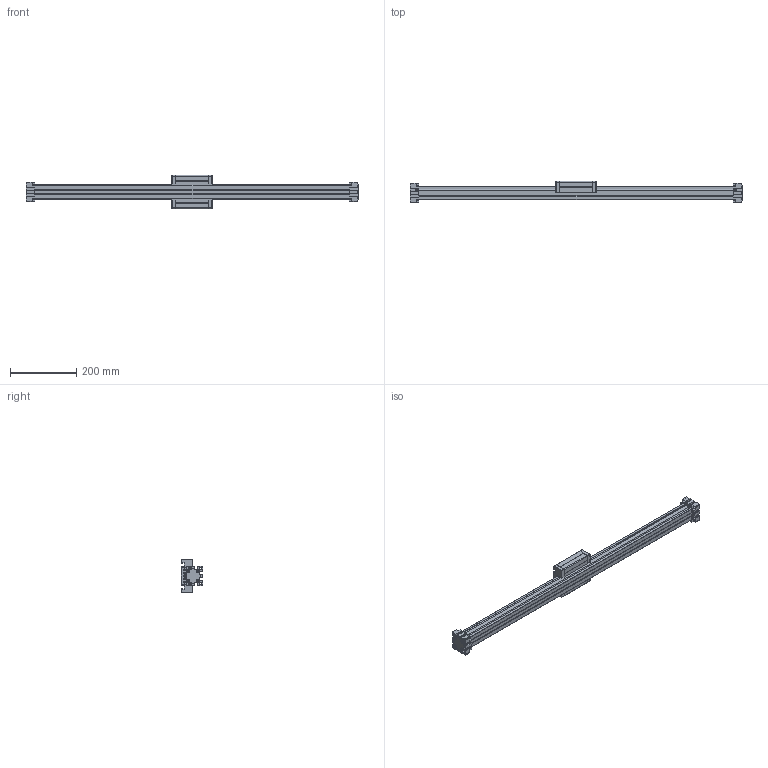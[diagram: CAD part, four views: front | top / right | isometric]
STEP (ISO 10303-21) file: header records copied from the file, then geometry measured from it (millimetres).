
FILE_DESCRIPTION (( 'STEP AP214' ), '1' );
FILE_NAME ('ELR-40.STEP', '2016-01-15T07:04:08', ( 'admin' ), ( '' ), 'SwSTEP 2.0', 'SolidWorks 2015', '' );
FILE_SCHEMA (( 'AUTOMOTIVE_DESIGN' ));
Length unit declared in the file: millimetre
Products named in the file (5): Kopie von Bahr-ELR-ELR-40  0  0 0  0 0 0 0  1175_EL40 Carriage^ELR40 S0_A; Kopie von Bahr-ELR-ELR-40  0  0 0  0 0 0 0  1175_EL40 Extrusion^ELR40 S0_0; Kopie von Bahr-ELR-ELR-40  0  0 0  0 0 0 0  1175_ELR End Block 40 (B)^ELR40 S0_ELR-40 End Block 0-0; Kopie von Bahr-ELR-ELR-40  0  0 0  0 0 0 0  1175_ELR End Block 40 (A)^ELR40 S0_ELR-40 End Block 0-0; ELR-40
Assembly tree (4 placements, depth 2):
  ELR-40
    Kopie von Bahr-ELR-ELR-40  0  0 0  0 0 0 0  1175_ELR End Block 40 (A)^ELR40 S0_ELR-40 End Block 0-0
    Kopie von Bahr-ELR-ELR-40  0  0 0  0 0 0 0  1175_ELR End Block 40 (B)^ELR40 S0_ELR-40 End Block 0-0
    Kopie von Bahr-ELR-ELR-40  0  0 0  0 0 0 0  1175_EL40 Extrusion^ELR40 S0_0
    Kopie von Bahr-ELR-ELR-40  0  0 0  0 0 0 0  1175_EL40 Carriage^ELR40 S0_A
Bounding box: 1002 x 64 x 100 mm (x, y, z)
Volume: 1857217.3 mm3; surface area: 321196 mm2
Topology: 19 solids, 19 shells, 970 faces, 2709 edges, 1784 vertices
Faces by surface type: plane 717, cylinder 213, cone 32, torus 8
Entity records: 31367 total; most frequent: CARTESIAN_POINT 5470, ORIENTED_EDGE 5418, DIRECTION 5177, EDGE_CURVE 2709, VECTOR 2195, LINE 2195, VERTEX_POINT 1784, AXIS2_PLACEMENT_3D 1491
